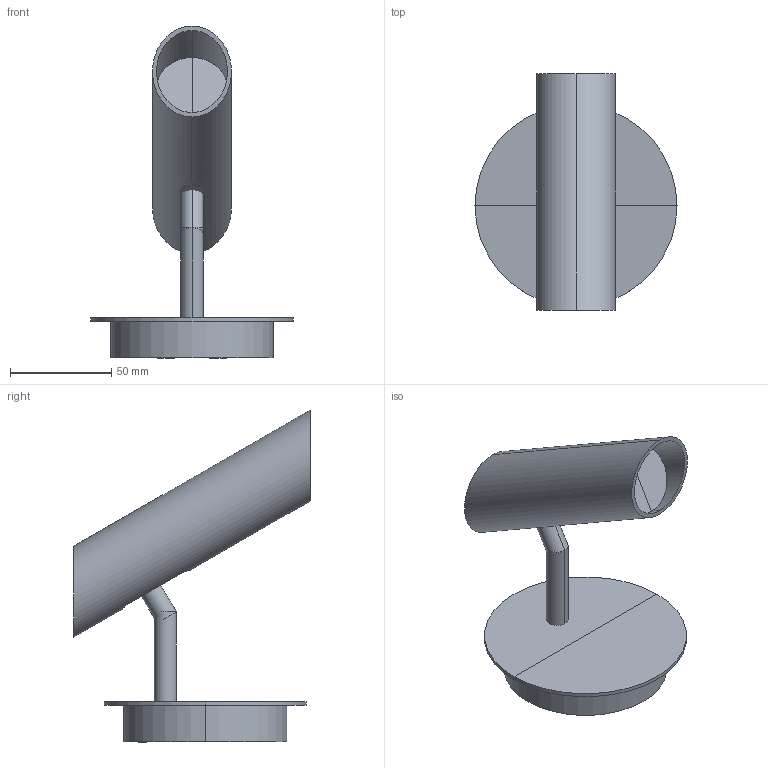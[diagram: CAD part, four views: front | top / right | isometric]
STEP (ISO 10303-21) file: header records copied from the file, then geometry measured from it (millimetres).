
FILE_DESCRIPTION(/* description */ (''),/* implementation_level */ '2;1');
FILE_NAME(/* name */ 'leo_projector_lamp - Vista 3D - Export.step',/* time_stamp */ '2024-12-10T10:45:43+01:00',/* author */ ('RenataManzini'),/* organization */ (''),/* preprocessor_version */ 'ST-DEVELOPER v20',/* originating_system */ 'AutoCAD Mechanical',/* authorisation */ '');
FILE_SCHEMA (('AUTOMOTIVE_DESIGN { 1 0 10303 214 3 1 1 }'));
Length unit declared in the file: millimetre
Products named in the file (3): Product; leo_aplique - SUAU-463924-Export; Fotometrica_Base - Fotometrica_Base-452490-Export
Assembly tree (2 placements, depth 2):
  Product
    leo_aplique - SUAU-463924-Export
    Fotometrica_Base - Fotometrica_Base-452490-Export
Bounding box: 100 x 117 x 164.3 mm (x, y, z)
Volume: 158655.7 mm3; surface area: 63724.5 mm2
Topology: 6 solids, 7 shells, 83 faces, 186 edges, 117 vertices
Faces by surface type: plane 52, cylinder 27, bspline 4
Entity records: 2632 total; most frequent: CARTESIAN_POINT 724, DIRECTION 395, ORIENTED_EDGE 350, EDGE_CURVE 183, AXIS2_PLACEMENT_3D 137, LINE 121, VECTOR 121, VERTEX_POINT 112
